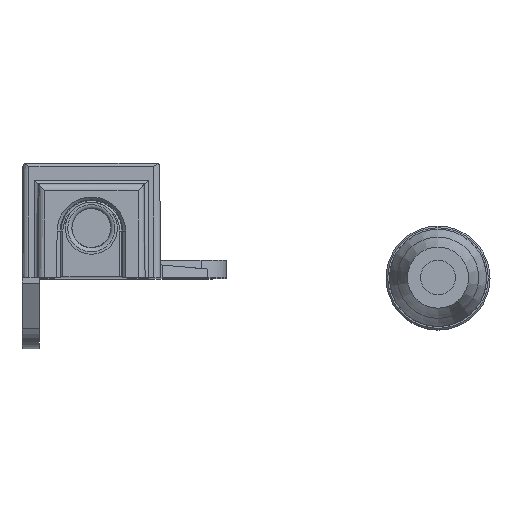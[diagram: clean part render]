
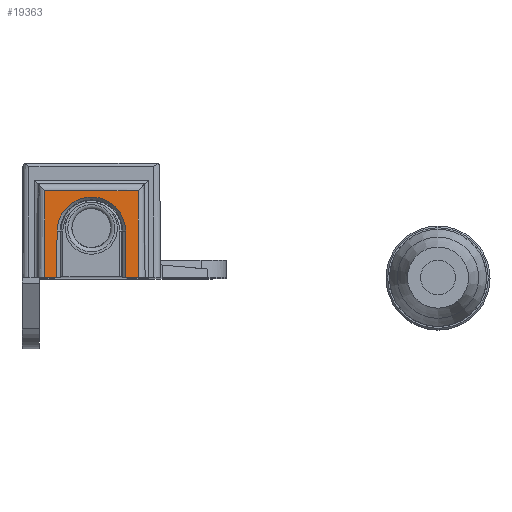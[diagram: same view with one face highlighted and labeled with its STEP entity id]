
A CAD part, top view. The second image highlights one B-rep face of the part: STEP entity #19363.
In plain terms, the highlighted planar face has unit normal (0, 0.009, 1).
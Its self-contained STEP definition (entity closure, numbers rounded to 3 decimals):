
#16724=CARTESIAN_POINT('',(6.75,0.0,3.5));
#16725=VERTEX_POINT('',#16724);
#16733=CARTESIAN_POINT('',(5.,0.0,3.5));
#16734=VERTEX_POINT('',#16733);
#16735=CARTESIAN_POINT('',(5.,0.0,3.5));
#16736=DIRECTION('',(1.0,0.0,0.0));
#16737=VECTOR('',#16736,1.75);
#16738=LINE('',#16735,#16737);
#16739=EDGE_CURVE('',#16734,#16725,#16738,.T.);
#17091=CARTESIAN_POINT('',(-5.,0.0,3.5));
#17092=VERTEX_POINT('',#17091);
#17099=CARTESIAN_POINT('',(-6.75,0.0,3.5));
#17100=VERTEX_POINT('',#17099);
#17101=CARTESIAN_POINT('',(-6.75,0.0,3.5));
#17102=DIRECTION('',(1.0,0.0,0.0));
#17103=VECTOR('',#17102,1.75);
#17104=LINE('',#17101,#17103);
#17105=EDGE_CURVE('',#17100,#17092,#17104,.T.);
#19108=CARTESIAN_POINT('',(-4.942,6.7,3.442));
#19109=VERTEX_POINT('',#19108);
#19110=CARTESIAN_POINT('',(4.942,6.7,3.442));
#19111=VERTEX_POINT('',#19110);
#19112=CARTESIAN_POINT('',(0.0,6.657,3.442));
#19113=DIRECTION('',(0.,-0.009,-1.));
#19114=DIRECTION('',(0.,-1.,0.009));
#19115=AXIS2_PLACEMENT_3D('',#19112,#19113,#19114);
#19116=ELLIPSE('',#19115,4.942,4.942);
#19117=EDGE_CURVE('',#19109,#19111,#19116,.T.);
#19319=CARTESIAN_POINT('',(6.75,0.0,3.5));
#19320=DIRECTION('',(0.0,0.009,1.));
#19321=DIRECTION('',(1.0,0.0,0.0));
#19322=AXIS2_PLACEMENT_3D('',#19319,#19320,#19321);
#19323=PLANE('',#19322);
#19324=ORIENTED_EDGE('',*,*,#19117,.T.);
#19325=CARTESIAN_POINT('',(4.942,6.7,3.442));
#19326=DIRECTION('',(0.009,-1.,0.009));
#19327=VECTOR('',#19326,6.701);
#19328=LINE('',#19325,#19327);
#19329=EDGE_CURVE('',#19111,#16734,#19328,.T.);
#19330=ORIENTED_EDGE('',*,*,#19329,.T.);
#19331=ORIENTED_EDGE('',*,*,#16739,.T.);
#19332=CARTESIAN_POINT('',(6.75,12.509,3.391));
#19333=VERTEX_POINT('',#19332);
#19334=CARTESIAN_POINT('',(6.75,0.0,3.5));
#19335=DIRECTION('',(0.0,1.,-0.009));
#19336=VECTOR('',#19335,12.509);
#19337=LINE('',#19334,#19336);
#19338=EDGE_CURVE('',#16725,#19333,#19337,.T.);
#19339=ORIENTED_EDGE('',*,*,#19338,.T.);
#19340=CARTESIAN_POINT('',(-6.75,12.509,3.391));
#19341=VERTEX_POINT('',#19340);
#19342=CARTESIAN_POINT('',(-6.75,12.509,3.391));
#19343=DIRECTION('',(1.0,0.0,0.0));
#19344=VECTOR('',#19343,13.5);
#19345=LINE('',#19342,#19344);
#19346=EDGE_CURVE('',#19341,#19333,#19345,.T.);
#19347=ORIENTED_EDGE('',*,*,#19346,.F.);
#19348=CARTESIAN_POINT('',(-6.75,0.0,3.5));
#19349=DIRECTION('',(0.0,1.,-0.009));
#19350=VECTOR('',#19349,12.509);
#19351=LINE('',#19348,#19350);
#19352=EDGE_CURVE('',#17100,#19341,#19351,.T.);
#19353=ORIENTED_EDGE('',*,*,#19352,.F.);
#19354=ORIENTED_EDGE('',*,*,#17105,.T.);
#19355=CARTESIAN_POINT('',(-5.,0.,3.5));
#19356=DIRECTION('',(0.009,1.,-0.009));
#19357=VECTOR('',#19356,6.701);
#19358=LINE('',#19355,#19357);
#19359=EDGE_CURVE('',#17092,#19109,#19358,.T.);
#19360=ORIENTED_EDGE('',*,*,#19359,.T.);
#19361=EDGE_LOOP('',(#19324,#19330,#19331,#19339,#19347,#19353,#19354,#19360));
#19362=FACE_OUTER_BOUND('',#19361,.T.);
#19363=ADVANCED_FACE('',(#19362),#19323,.T.);
